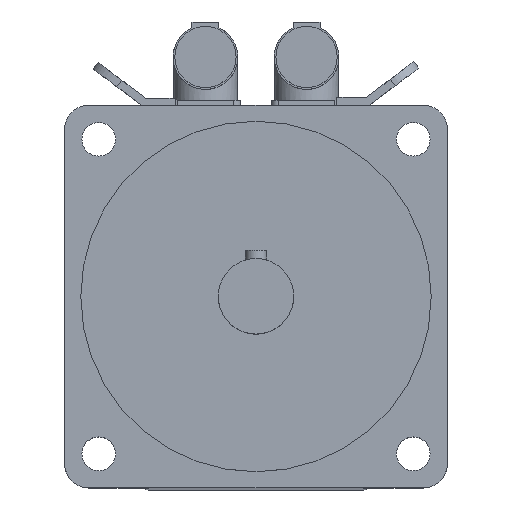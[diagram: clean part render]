
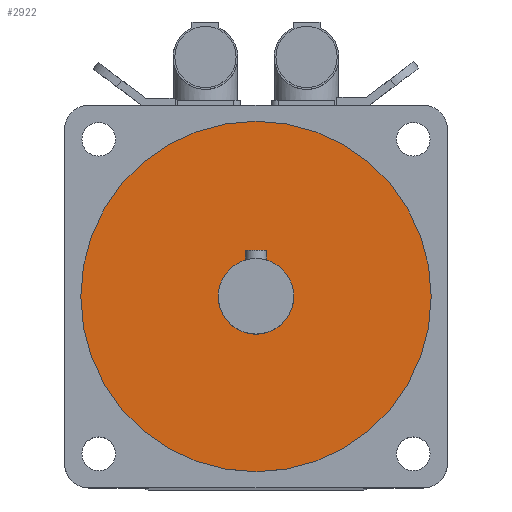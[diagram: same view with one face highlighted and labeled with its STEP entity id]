
A CAD part, top view. The second image highlights one B-rep face of the part: STEP entity #2922.
In plain terms, the highlighted planar face has unit normal (0, 0, 1).
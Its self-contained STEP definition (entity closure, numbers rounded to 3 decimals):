
#614=PLANE('',#3118);
#692=FACE_BOUND('',#926,.T.);
#742=FACE_OUTER_BOUND('',#925,.T.);
#925=EDGE_LOOP('',(#2098));
#926=EDGE_LOOP('',(#2099));
#1112=CIRCLE('',#3113,14.);
#1113=CIRCLE('',#3116,65.);
#1298=VERTEX_POINT('',#4521);
#1299=VERTEX_POINT('',#4525);
#1604=EDGE_CURVE('',#1298,#1298,#1112,.T.);
#1605=EDGE_CURVE('',#1299,#1299,#1113,.T.);
#2098=ORIENTED_EDGE('',*,*,#1605,.T.);
#2099=ORIENTED_EDGE('',*,*,#1604,.T.);
#2922=ADVANCED_FACE('',(#742,#692),#614,.T.);
#3113=AXIS2_PLACEMENT_3D('',#4522,#3545,#3546);
#3116=AXIS2_PLACEMENT_3D('',#4526,#3551,#3552);
#3118=AXIS2_PLACEMENT_3D('',#4529,#3555,#3556);
#3545=DIRECTION('center_axis',(0.,0.,-1.));
#3546=DIRECTION('ref_axis',(-1.,0.,0.));
#3551=DIRECTION('center_axis',(0.,0.,1.));
#3552=DIRECTION('ref_axis',(-1.,0.,0.));
#3555=DIRECTION('center_axis',(0.,0.,1.));
#3556=DIRECTION('ref_axis',(1.,0.,0.));
#4521=CARTESIAN_POINT('',(14.,0.,410.5));
#4522=CARTESIAN_POINT('Origin',(0.,0.,410.5));
#4525=CARTESIAN_POINT('',(65.,0.,410.5));
#4526=CARTESIAN_POINT('Origin',(0.,0.,410.5));
#4529=CARTESIAN_POINT('Origin',(0.,0.,410.5));
